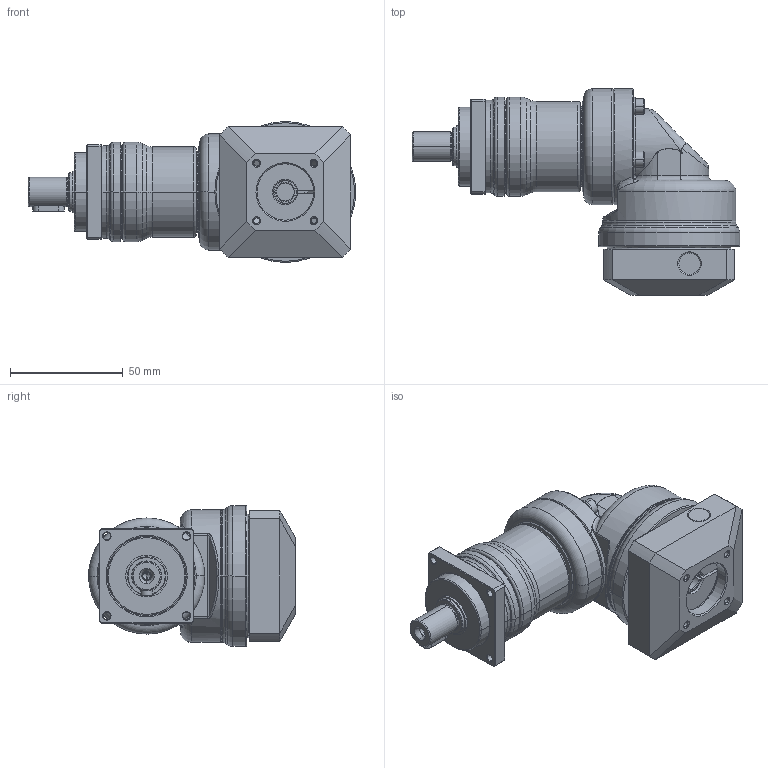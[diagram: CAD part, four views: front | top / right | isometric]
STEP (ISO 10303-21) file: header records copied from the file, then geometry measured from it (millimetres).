
FILE_DESCRIPTION((''),'2;1');
FILE_NAME('PA2R-042_2ST_8-P0411100101_ASM','2016-05-13T',('d01943'),(''),'PRO/ENGINEER BY PARAMETRIC TECHNOLOGY CORPORATION, 2008410','PRO/ENGINEER BY PARAMETRIC TECHNOLOGY CORPORATION, 2008410','');
FILE_SCHEMA(('CONFIG_CONTROL_DESIGN'));
Length unit declared in the file: millimetre
Products named in the file (12): P1327100001; P0251100001; P0350100601; P1349100001; P1017100001; P0713100001; P0503100005; P1350100001; P0411100101; P1702300001; 2111B104015; PA2R-042_2ST_8-P0411100101_ASM
Assembly tree (14 placements, depth 2):
  PA2R-042_2ST_8-P0411100101_ASM
    P1327100001
    P0251100001
    P0350100601
    P1349100001
    P1017100001
    P0713100001
    P0503100005
    P1350100001
    P0411100101
    P1702300001
    2111B104015  x4
Bounding box: 145.25 x 91.75 x 62.5 mm (x, y, z)
Volume: 195406.1 mm3; surface area: 75834.3 mm2
Topology: 14 solids, 14 shells, 742 faces, 1642 edges, 955 vertices
Faces by surface type: cylinder 220, cone 208, plane 171, torus 108, bspline 35
Entity records: 23947 total; most frequent: CARTESIAN_POINT 9445, DIRECTION 3203, ORIENTED_EDGE 2828, EDGE_CURVE 1414, AXIS2_PLACEMENT_3D 1356, VERTEX_POINT 835, EDGE_LOOP 727, CIRCLE 722
